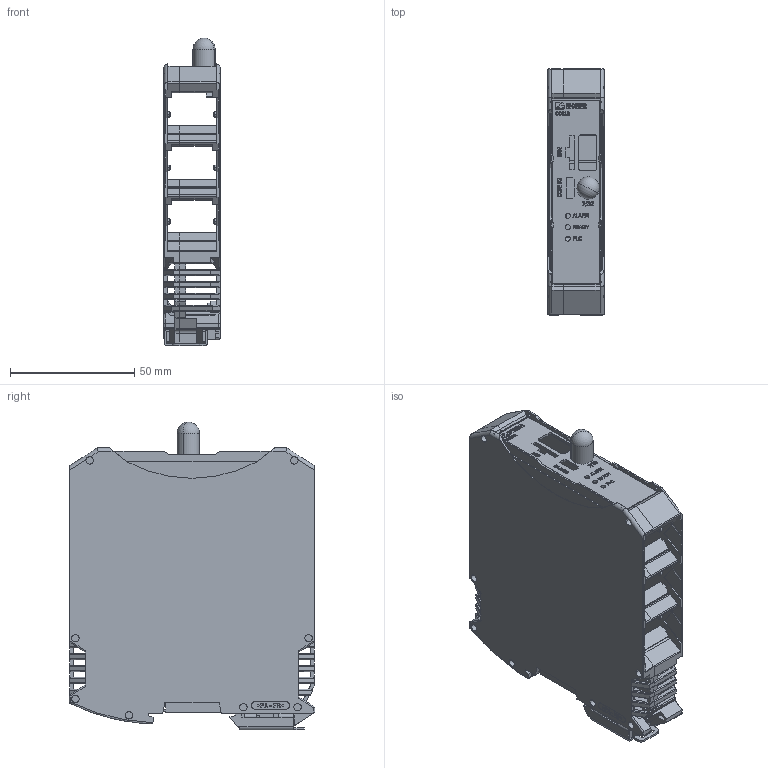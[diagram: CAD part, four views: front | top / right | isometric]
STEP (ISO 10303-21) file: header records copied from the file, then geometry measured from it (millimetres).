
FILE_DESCRIPTION (( 'STEP AP214' ), '1' );
FILE_NAME ('CC612.STEP', '2018-09-11T13:54:33', ( '' ), ( '' ), 'SwSTEP 2.0', 'SolidWorks 2018', '' );
FILE_SCHEMA (( 'AUTOMOTIVE_DESIGN' ));
Length unit declared in the file: centimetre
Products named in the file (1): CC612
Bounding box: 22.6 x 99 x 124.1 mm (x, y, z)
Surface area: 64380.4 mm2 (no closed solid volume)
Topology: 0 solids, 9 shells, 2759 faces, 7658 edges, 5050 vertices
Faces by surface type: plane 1746, cylinder 529, bspline 437, cone 39, torus 6, sphere 2
Entity records: 128522 total; most frequent: CARTESIAN_POINT 31546, ORIENTED_EDGE 15304, DIRECTION 11227, EDGE_CURVE 7654, VECTOR 5395, LINE 5395, VERTEX_POINT 5048, EDGE_LOOP 2950
